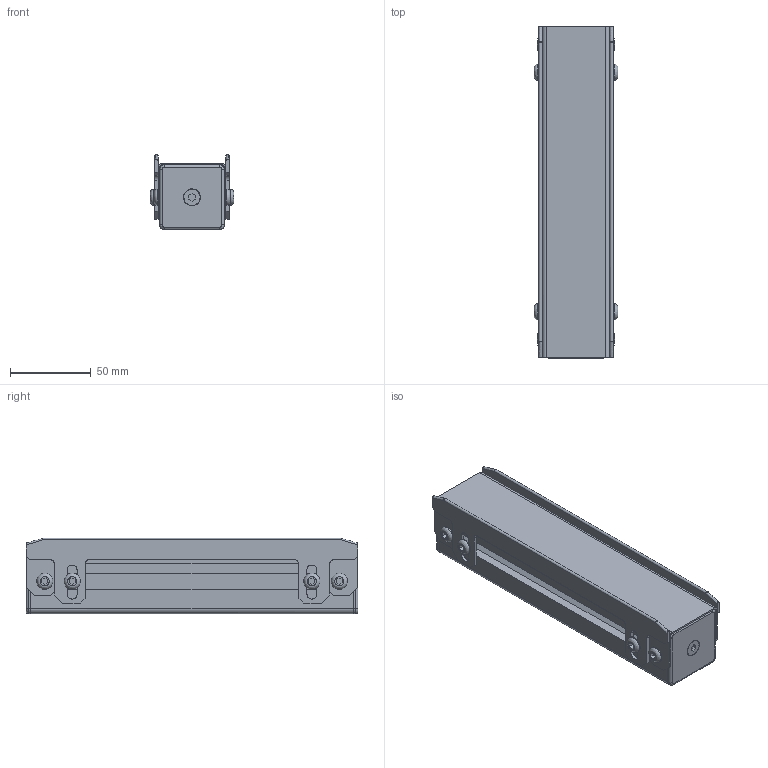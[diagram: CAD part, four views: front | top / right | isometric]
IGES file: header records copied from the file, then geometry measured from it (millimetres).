
Global section: file name: MGSS-FA-4040x205H; native system: unknown; preprocessor: unknown; author: unknown; organization: unknown; date: 20221215.125405; units: millimetre
Bounding box: 51.6 x 205 x 46.5 mm (x, y, z)
Volume: 165712.3 mm3; surface area: 145458.4 mm2
Topology: 16 solids, 16 shells, 352 faces, 936 edges, 618 vertices
Faces by surface type: bspline 352
